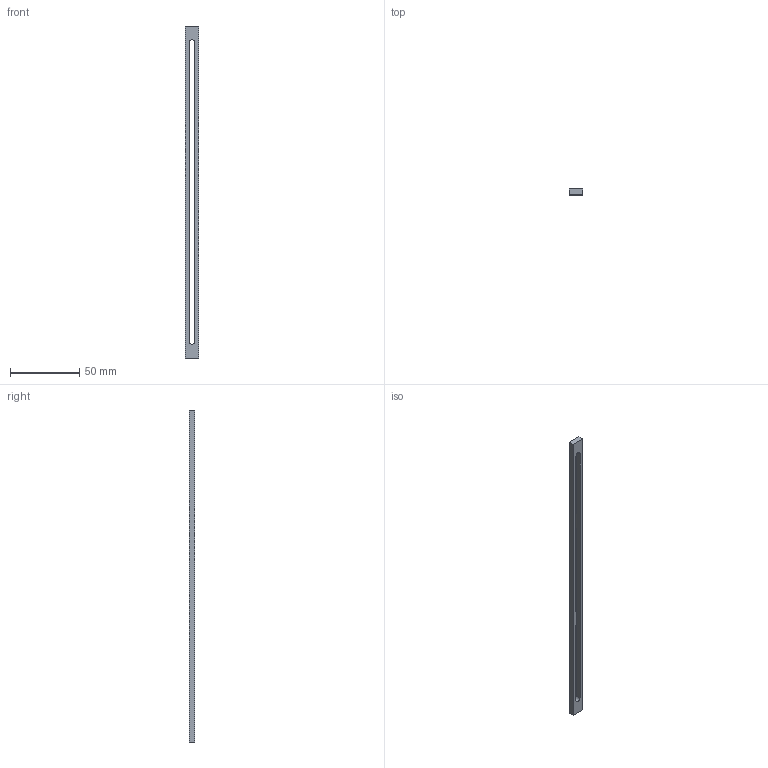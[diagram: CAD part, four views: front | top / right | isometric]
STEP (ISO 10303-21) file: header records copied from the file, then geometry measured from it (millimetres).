
FILE_DESCRIPTION(('Open CASCADE Model'),'2;1');
FILE_NAME('Open CASCADE Shape Model','2026-11-08T07:33:08',('Author'),( 'Open CASCADE'),'Open CASCADE STEP processor 7.8','Open CASCADE 7.8' ,'Unknown');
FILE_SCHEMA(('AUTOMOTIVE_DESIGN { 1 0 10303 214 1 1 1 1 }'));
Length unit declared in the file: millimetre
Products named in the file (1): Open CASCADE STEP translator 7.8 18
Bounding box: 10 x 4 x 240 mm (x, y, z)
Volume: 5915.8 mm3; surface area: 6738.7 mm2
Topology: 1 solids, 1 shells, 10 faces, 24 edges, 16 vertices
Faces by surface type: plane 8, cylinder 2
Entity records: 630 total; most frequent: CARTESIAN_POINT 123, DIRECTION 94, LINE 64, VECTOR 64, ORIENTED_EDGE 48, PCURVE 48, DEFINITIONAL_REPRESENTATION 48, EDGE_CURVE 24
